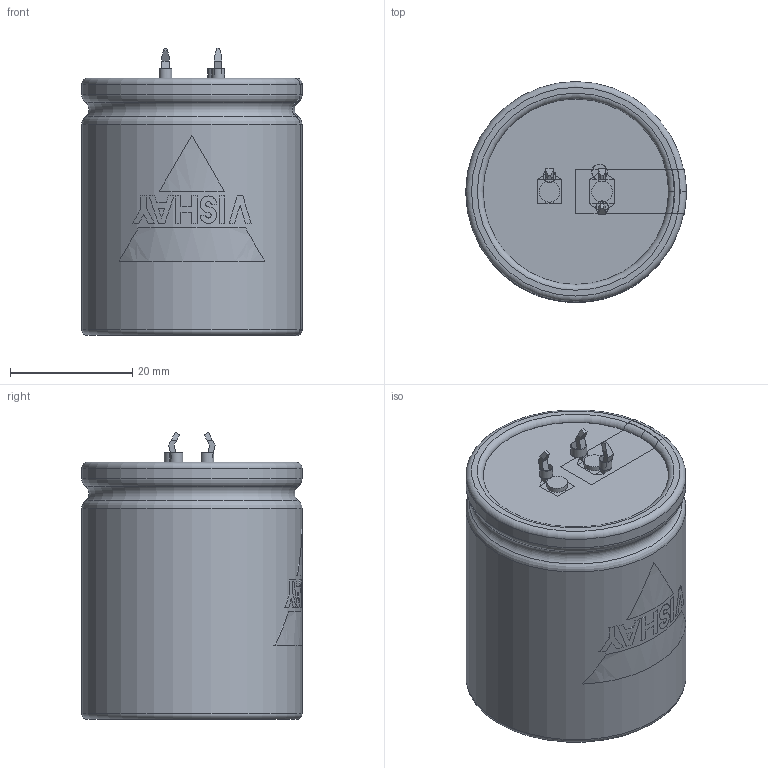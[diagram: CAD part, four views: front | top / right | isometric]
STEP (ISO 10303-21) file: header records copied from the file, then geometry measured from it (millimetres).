
FILE_DESCRIPTION(('FreeCAD Model'),'2;1');
FILE_NAME( 'C:/Users/Gebruiker/Documents/FreeCAD/SnapIn_35x40_3pin_4.0.step', '2020-11-12T21:19:23',('Author'),(''), 'Open CASCADE STEP processor 6.8','FreeCAD','Unknown');
FILE_SCHEMA(('AUTOMOTIVE_DESIGN_CC2 { 1 2 10303 214 -1 1 5 4 }'));
Length unit declared in the file: millimetre
Products named in the file (9): ASSEMBLY; TerminalMinKP; PCBHolesKP; TerminalPlus; Disc; BottomInsulation; Can3D; InkMinusBar; InkLogo
Assembly tree (8 placements, depth 2):
  ASSEMBLY
    TerminalMinKP
    PCBHolesKP
    TerminalPlus
    Disc
    BottomInsulation
    Can3D
    InkMinusBar
    InkLogo
Bounding box: 36.05 x 36.05 x 46.95 mm (x, y, z)
Volume: 49039.5 mm3; surface area: 17143.5 mm2
Topology: 17 solids, 17 shells, 204 faces, 493 edges, 321 vertices
Faces by surface type: plane 155, cylinder 31, torus 18
Full cylindrical faces by diameter (mm): 2 x2, 2.1 x2, 2.5 x1, 2.6 x1, 3.4 x2, 28.8 x2, 30.3 x1, 36 x2
Entity records: 20306 total; most frequent: CARTESIAN_POINT 9239, DIRECTION 1722, ORIENTED_EDGE 986, PCURVE 986, DEFINITIONAL_REPRESENTATION 986, LINE 959, VECTOR 959, EDGE_CURVE 493
